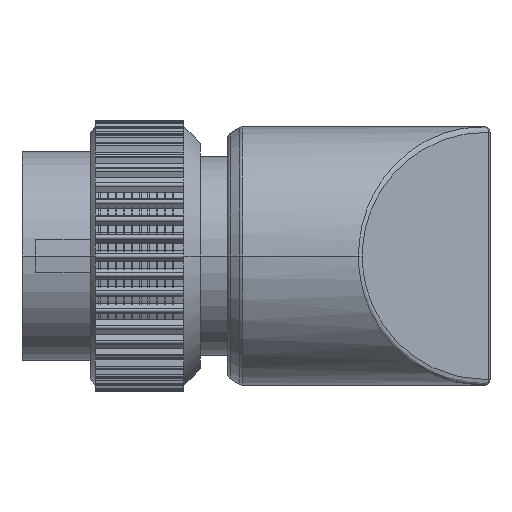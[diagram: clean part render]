
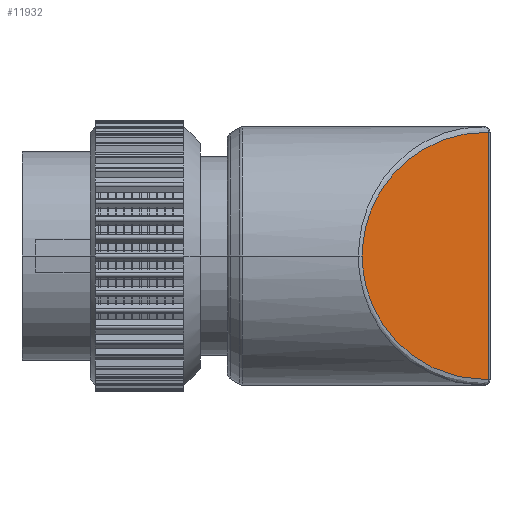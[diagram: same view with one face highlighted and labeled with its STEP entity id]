
A CAD part, front view. The second image highlights one B-rep face of the part: STEP entity #11932.
In plain terms, the highlighted planar face has unit normal (0.707, -0.707, 0).
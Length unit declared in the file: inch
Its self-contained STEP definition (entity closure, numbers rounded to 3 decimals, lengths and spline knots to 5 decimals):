
#2975=CARTESIAN_POINT('',(1.71414,-0.00586,
-0.4549));
#2976=CARTESIAN_POINT('',(1.68014,-0.03986,
-0.45552));
#2977=CARTESIAN_POINT('',(1.61634,-0.10366,
-0.44921));
#2978=CARTESIAN_POINT('',(1.53287,-0.18713,
-0.42353));
#2979=CARTESIAN_POINT('',(1.46283,-0.25717,
-0.38713));
#2980=CARTESIAN_POINT('',(1.40408,-0.31592,
-0.34297));
#2981=CARTESIAN_POINT('',(1.3564,-0.3636,
-0.29387));
#2982=CARTESIAN_POINT('',(1.31892,-0.40108,
-0.24203));
#2983=CARTESIAN_POINT('',(1.29077,-0.42923,
-0.18929));
#2984=CARTESIAN_POINT('',(1.27102,-0.44898,
-0.13744));
#2985=CARTESIAN_POINT('',(1.25853,-0.46147,
-0.08783));
#2986=CARTESIAN_POINT('',(1.25205,-0.46795,
-0.04173));
#2987=CARTESIAN_POINT('',(1.25086,-0.46914,
-0.0135));
#2988=CARTESIAN_POINT('',(1.25086,-0.46914,0.));
#2990=CARTESIAN_POINT('',(1.25086,-0.46914,0.));
#2991=CARTESIAN_POINT('',(1.25086,-0.46914,
0.0137));
#2992=CARTESIAN_POINT('',(1.25208,-0.46792,
0.04236));
#2993=CARTESIAN_POINT('',(1.25881,-0.46119,
0.08944));
#2994=CARTESIAN_POINT('',(1.27174,-0.44826,
0.13978));
#2995=CARTESIAN_POINT('',(1.29206,-0.42794,
0.19216));
#2996=CARTESIAN_POINT('',(1.32084,-0.39916,
0.2451));
#2997=CARTESIAN_POINT('',(1.3589,-0.3611,
0.29682));
#2998=CARTESIAN_POINT('',(1.40697,-0.31303,
0.34548));
#2999=CARTESIAN_POINT('',(1.46576,-0.25424,
0.38893));
#3000=CARTESIAN_POINT('',(1.53544,-0.18456,
0.42451));
#3001=CARTESIAN_POINT('',(1.61786,-0.10214,
0.44943));
#3002=CARTESIAN_POINT('',(1.6807,-0.0393,
0.4555));
#3003=CARTESIAN_POINT('',(1.71414,-0.00586,
0.45488));
#3005=DIRECTION('',(0.,0.,-1.));
#3006=VECTOR('',#3005,0.90978);
#3007=CARTESIAN_POINT('',(1.71414,-0.00586,
0.45488));
#3008=LINE('',#3007,#3006);
#7327=VERTEX_POINT('',#2975);
#7328=VERTEX_POINT('',#2988);
#7329=VERTEX_POINT('',#3003);
#11920=CARTESIAN_POINT('',(1.72,0.,-0.5));
#11921=DIRECTION('',(-0.707,0.707,0.));
#11922=DIRECTION('',(-0.707,-0.707,0.));
#11923=AXIS2_PLACEMENT_3D('',#11920,#11921,#11922);
#11924=PLANE('',#11923);
#11926=ORIENTED_EDGE('',*,*,#11925,.T.);
#11928=ORIENTED_EDGE('',*,*,#11927,.T.);
#11929=ORIENTED_EDGE('',*,*,#11910,.T.);
#11930=EDGE_LOOP('',(#11926,#11928,#11929));
#11931=FACE_OUTER_BOUND('',#11930,.F.);
#11932=ADVANCED_FACE('',(#11931),#11924,.F.);
#2989=B_SPLINE_CURVE_WITH_KNOTS('',3,(#2975,#2976,#2977,#2978,#2979,#2980,#2981,
#2982,#2983,#2984,#2985,#2986,#2987,#2988),.UNSPECIFIED.,.F.,.F.,(4,1,1,1,1,1,1,
1,1,1,1,4),(0.,0.09091,0.18182,0.27273,
0.36364,0.45455,0.54545,0.63636,
0.72727,0.81818,0.90909,1.),.UNSPECIFIED.);
#3004=B_SPLINE_CURVE_WITH_KNOTS('',3,(#2990,#2991,#2992,#2993,#2994,#2995,#2996,
#2997,#2998,#2999,#3000,#3001,#3002,#3003),.UNSPECIFIED.,.F.,.F.,(4,1,1,1,1,1,1,
1,1,1,1,4),(0.,0.09091,0.18182,0.27273,
0.36364,0.45455,0.54545,0.63636,
0.72727,0.81818,0.90909,1.),.UNSPECIFIED.);
#11910=EDGE_CURVE('',#7329,#7327,#3008,.T.);
#11925=EDGE_CURVE('',#7327,#7328,#2989,.T.);
#11927=EDGE_CURVE('',#7328,#7329,#3004,.T.);
